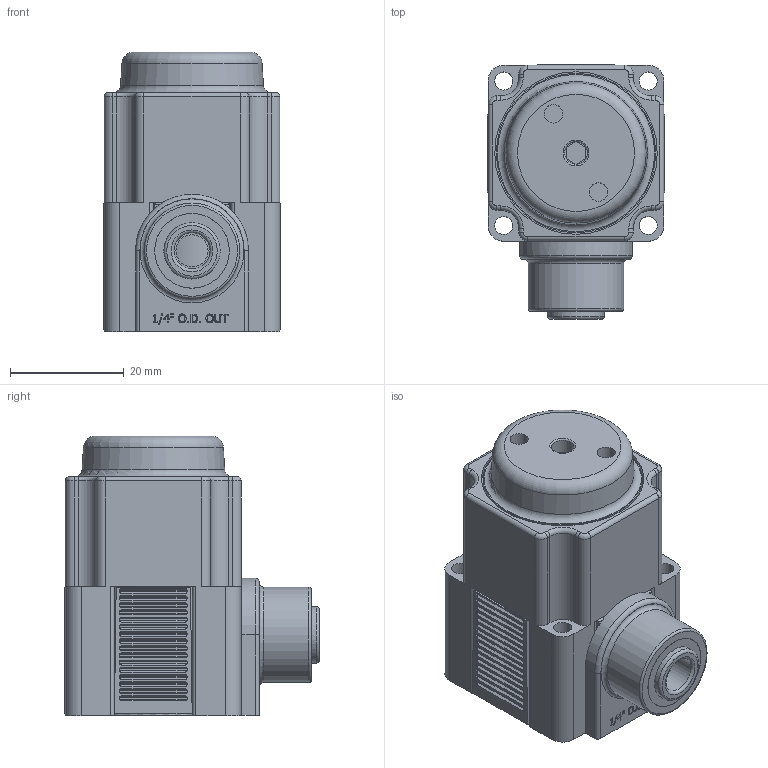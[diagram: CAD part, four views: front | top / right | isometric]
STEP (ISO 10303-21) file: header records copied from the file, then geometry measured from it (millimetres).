
FILE_DESCRIPTION(/* description */ (''),/* implementation_level */ '2;1');
FILE_NAME(/* name */ 'K:\Normteile INVENTOR\Air-Logic\Regulators\PR7000\PR 7___ 5 Push-In Fitting for 1''4 O.D. Tube Out.igs.ipt.stp',/* time_stamp */ '2020-05-27T10:54:07+02:00',/* author */ ('Paul'),/* organization */ (''),/* preprocessor_version */ 'ST-DEVELOPER v18',/* originating_system */ 'Autodesk Inventor 2020',/* authorisation */ '');
FILE_SCHEMA (('AUTOMOTIVE_DESIGN { 1 0 10303 214 3 1 1 }'));
Length unit declared in the file: inch
Products named in the file (1): PR 7___ 5 Push-In Fitting for 1'4 O.D. Tube Out.igs
Bounding box: 31.19 x 44.8 x 49.15 mm (x, y, z)
Volume: 42195.2 mm3; surface area: 14117 mm2
Topology: 1 solids, 1 shells, 714 faces, 1844 edges, 1207 vertices
Faces by surface type: plane 374, cylinder 253, bspline 61, torus 24, cone 2
Full cylindrical faces by diameter (mm): 3.175 x4, 3.226 x2, 4.013 x1, 5.639 x1, 6.35 x1, 9.169 x1, 9.398 x1, 9.906 x1, 12.903 x1, 13.132 x1, 13.144 x1, 16.764 x1, 26.264 x1, 28.047 x1, 28.575 x1
Entity records: 24394 total; most frequent: CARTESIAN_POINT 5935, DIRECTION 3731, ORIENTED_EDGE 3688, EDGE_CURVE 1844, AXIS2_PLACEMENT_3D 1415, VERTEX_POINT 1207, LINE 901, VECTOR 901
